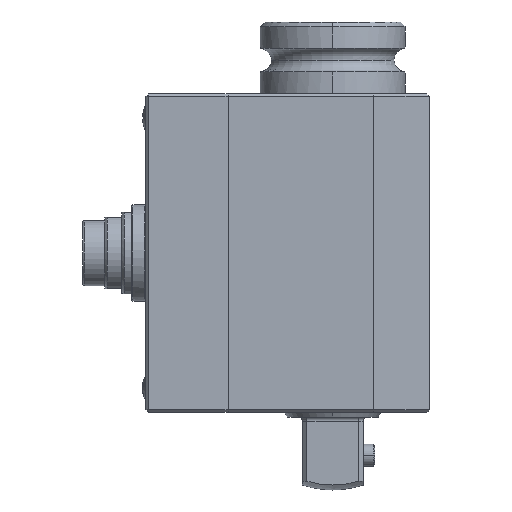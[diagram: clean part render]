
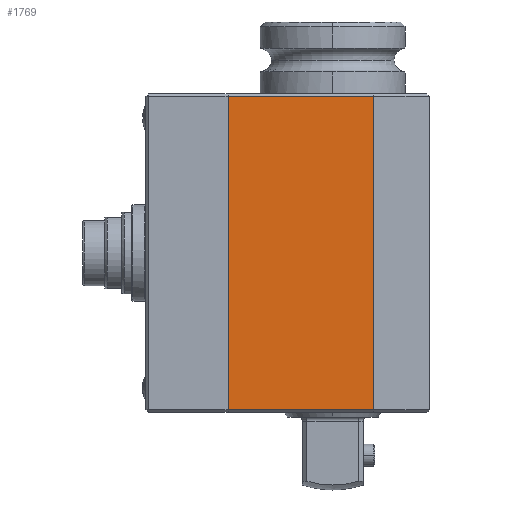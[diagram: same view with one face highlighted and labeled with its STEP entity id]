
A CAD part, left-side view. The second image highlights one B-rep face of the part: STEP entity #1769.
In plain terms, the highlighted planar face has unit normal (-1, 0, 0).
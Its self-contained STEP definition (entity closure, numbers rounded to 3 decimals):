
#839 = LINE ( 'NONE', #10055, #7370 ) ;
#957 = ORIENTED_EDGE ( 'NONE', *, *, #4270, .F. ) ;
#1384 = ORIENTED_EDGE ( 'NONE', *, *, #3638, .T. ) ;
#1653 = PLANE ( 'NONE',  #9547 ) ;
#1769 = ADVANCED_FACE ( 'NONE', ( #2883 ), #1653, .T. ) ;
#1878 = CARTESIAN_POINT ( 'NONE',  ( -20., 11.5, -66. ) ) ;
#1923 = LINE ( 'NONE', #6485, #9498 ) ;
#2729 = VECTOR ( 'NONE', #5439, 1000. ) ;
#2883 = FACE_OUTER_BOUND ( 'NONE', #3657, .T. ) ;
#3229 = CARTESIAN_POINT ( 'NONE',  ( -20., 11.5, -65.5 ) ) ;
#3638 = EDGE_CURVE ( 'NONE', #5839, #4181, #9506, .T. ) ;
#3657 = EDGE_LOOP ( 'NONE', ( #10949, #4319, #957, #1384 ) ) ;
#4045 = CARTESIAN_POINT ( 'NONE',  ( -20., 11.5, -0.5 ) ) ;
#4181 = VERTEX_POINT ( 'NONE', #3229 ) ;
#4270 = EDGE_CURVE ( 'NONE', #5839, #9410, #1923, .T. ) ;
#4319 = ORIENTED_EDGE ( 'NONE', *, *, #4901, .T. ) ;
#4721 = CARTESIAN_POINT ( 'NONE',  ( -20., 11.5, -66. ) ) ;
#4901 = EDGE_CURVE ( 'NONE', #5853, #9410, #839, .T. ) ;
#5242 = LINE ( 'NONE', #4721, #9510 ) ;
#5439 = DIRECTION ( 'NONE',  ( 0., -1., 0. ) ) ;
#5839 = VERTEX_POINT ( 'NONE', #10855 ) ;
#5853 = VERTEX_POINT ( 'NONE', #4045 ) ;
#6150 = CARTESIAN_POINT ( 'NONE',  ( -20., 11.5, -65.5 ) ) ;
#6157 = DIRECTION ( 'NONE',  ( -1., 0., 0. ) ) ;
#6169 = DIRECTION ( 'NONE',  ( 0., -1., 0. ) ) ;
#6485 = CARTESIAN_POINT ( 'NONE',  ( -20., 41.7, -66. ) ) ;
#6493 = DIRECTION ( 'NONE',  ( 0., 0., 1. ) ) ;
#7370 = VECTOR ( 'NONE', #9212, 1000. ) ;
#8195 = EDGE_CURVE ( 'NONE', #4181, #5853, #5242, .T. ) ;
#8361 = DIRECTION ( 'NONE',  ( 0., 0., 1. ) ) ;
#9212 = DIRECTION ( 'NONE',  ( 0., 1., 0. ) ) ;
#9410 = VERTEX_POINT ( 'NONE', #9916 ) ;
#9498 = VECTOR ( 'NONE', #8361, 1000. ) ;
#9506 = LINE ( 'NONE', #6150, #2729 ) ;
#9510 = VECTOR ( 'NONE', #6493, 1000. ) ;
#9547 = AXIS2_PLACEMENT_3D ( 'NONE', #1878, #6157, #6169 ) ;
#9916 = CARTESIAN_POINT ( 'NONE',  ( -20., 41.7, -0.5 ) ) ;
#10055 = CARTESIAN_POINT ( 'NONE',  ( -20., 41.7, -0.5 ) ) ;
#10855 = CARTESIAN_POINT ( 'NONE',  ( -20., 41.7, -65.5 ) ) ;
#10949 = ORIENTED_EDGE ( 'NONE', *, *, #8195, .T. ) ;
